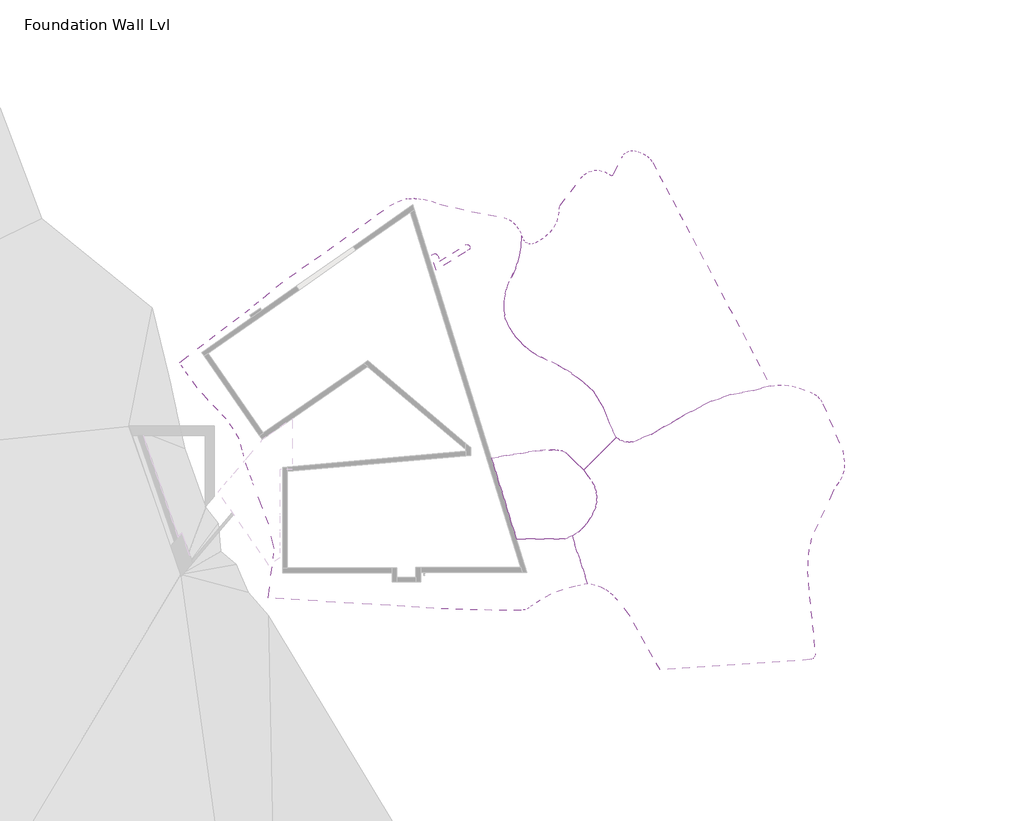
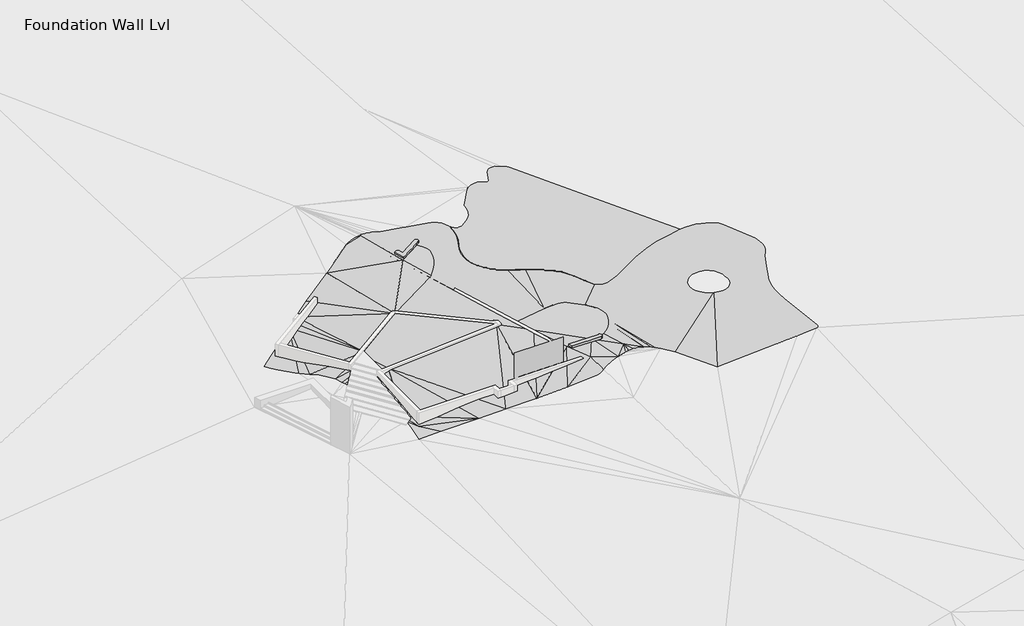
# One storey, part 2 of 2: 4 proxies, 1 geographic element.
"""IFC4 building model written with IfcOpenShell, lengths in millimetres."""

from ifc_helpers import new_model, si_unit, origin, place, context, project, spatial, triangles, transform, mapped, element, save
from components import geographic_element_bb1ba671

model = new_model("IFC4")

# Units and contexts
model_context = context("Model", 3, world=origin())
ifc_project = project(units=[si_unit("LENGTHUNIT", "METRE", prefix="MILLI")], contexts=[model_context])

# Site, building, storey
site = spatial("IfcSite", under=ifc_project)
building = spatial("IfcBuilding", under=site)
storey = spatial("IfcBuildingStorey", under=building, Name="Foundation Wall Lvl", Elevation=-2600.0)

# Proxies
placement = place(None, origin())
element("IfcBuildingElementProxy", 1, Name="Building Element Proxy", at=placement, inside=storey, context=model_context, shape_type="Tessellation", body=[
    triangles([(14198.0949921, 4639.8493469, -126.3244659), (12076.7744751, 2518.5291206, -125.9451649), (12536.6371033, 1908.2708759, -122.9605088), (12732.2205139, 1591.0216358, -121.525749), (12865.5484222, 1242.9927338, -120.1700541), (12931.9885529, 876.2694786, -118.9405325), (12929.2340698, 503.5864855, -117.8798505), (12857.3826416, 137.8850975, -117.0248518), (12679.2307251, -329.0655973, -116.1653204), (12431.4214325, -763.0832188, -115.5873578), (12119.8439392, -1153.8520992, -115.3046898), (11751.9036072, -1492.0843609, -115.3240381), (11336.3464142, -1769.7408142, -115.6449488), (12031.6400208, -3878.0095116, -107.7344941), (12359.3142059, -4871.5866554, -83.8802725), (12808.6216644, -4955.6719299, -93.5646741), (13238.704715, -5110.5118973, -100.3689644), (13281.9009155, -5134.4557846, -100.774036), (13444.9386383, -5224.8293381, -100.076931), (13638.5000793, -5332.1216263, -100.5082637), (13720.040451, -5396.2874771, -100.6828715), (13997.7211761, -5614.8008835, -103.6059216), (14307.126709, -5951.2762756, -108.8874761), (15107.4859955, -6975.6904907, -125.9028165), (17046.7246033, -10474.168808, -189.2564167), (24825.7683838, -9930.2054993, -126.0377192), (26799.5269775, -9792.1871796, -130.8969884), (26913.3572388, -9763.278479, -131.1850613), (27009.8536743, -9696.3360535, -131.4451472), (27034.3405518, -9671.849176, -131.5139475), (27104.6990479, -9560.7077042, -131.7269068), (27120.7469055, -9430.1505569, -131.8148375), (26661.6702759, -4794.8169228, -132.4307338), (26620.4867432, -4067.7546158, -132.6024166), (26640.6436523, -3339.805735, -132.9238451), (26721.9945007, -2616.1362442, -133.3927209), (26863.9649048, -1901.881295, -134.0057376), (27709.2016846, -89.2656542, -136.7426527), (28343.1281067, 1270.1960152, -138.7953344), (28647.2118713, 1704.4706703, -139.6984679), (28849.1460571, 2063.2131626, -140.324547), (28977.2126587, 2454.4580315, -140.7828584), (29026.4933716, 2863.1700027, -141.0557887), (28995.0883118, 3273.6423317, -141.1328552), (28903.0288147, 3795.7398239, -141.1039326), (27617.0305664, 6825.3630386, -139.1049358), (27478.6297119, 7076.3349289, -138.8617094), (27292.0201721, 7293.8635117, -138.488549), (27065.0223999, 7468.8324829, -138.0010969), (26807.1520935, 7593.9091507, -137.4197734), (26076.6292419, 7859.7975723, -135.7398523), (25626.4636963, 7987.4641983, -134.6911155), (25162.5501526, 8048.5395401, -133.5839792), (24694.6833618, 8041.7341415, -132.441816), (24210.3896667, 7999.3640533, -131.2463312), (23111.031189, 7704.7919174, -128.4583473), (21633.8190308, 7444.3200256, -124.7627607), (20412.2191772, 6999.6936768, -121.6208831), (19073.439267, 6346.7271378, -118.1156374), (19064.0282135, 6342.1367203, -118.1277733), (16465.9519135, 4842.1369995, -120.8102222), (15260.6126953, 4355.1484108, -122.6534327), (14978.2322571, 4339.7319099, -123.3680421), (14698.8807037, 4383.7690475, -124.2448962), (14434.9363495, 4485.3079079, -125.2451441), (20935.5593262, -206.6307378, -120.1996944), (20820.9686462, 109.4318288, -120.0388212), (20782.0779968, 443.3692672, -120.0690156), (20820.9686462, 777.3066965, -120.2886788), (20935.5593262, 1093.3692358, -120.6860383), (21154.2343506, 1422.3592564, -121.3417486), (21446.3746582, 1688.2668629, -122.1528183), (21794.427832, 1875.1149055, -123.0704948), (22177.4811951, 1971.6764534, -124.039649), (22572.5152222, 1972.1493896, -125.0020448), (22955.7988037, 1876.505373, -125.8998461), (23304.2984619, 1690.491291, -126.6791227), (23597.0736145, 1425.2839325, -127.2930478), (23816.5369629, 1096.8185165, -127.7047232), (23949.4962891, 724.8312658, -127.8894231), (23987.9683594, 331.6733597, -127.836047), (24040.332605, 8.5125567, -127.8427053), (24008.7810425, -317.3392419, -127.6439439), (23895.3879639, -624.450111, -127.2528522), (23707.6133789, -892.6206608, -126.6951555), (23457.8053711, -1104.21276, -126.0075248), (23162.3954956, -1245.3095982, -125.2351883), (22840.8151245, -1306.6307098, -124.4289511), (22453.3713318, -1292.1336296, -123.4906545), (22076.0338989, -1203.034199, -122.6048801), (21723.0298645, -1042.6917332, -121.8050197), (21407.6677185, -817.1517208, -121.1212406), (21141.8351074, -534.9176399, -120.5793224)], [[15, 16, 14], [18, 19, 10], [17, 18, 10], [16, 17, 14], [13, 14, 12], [12, 14, 11], [10, 11, 14], [10, 14, 17], [10, 20, 9], [10, 19, 20], [22, 66, 9], [22, 9, 21], [24, 25, 90], [23, 24, 92], [22, 23, 93], [66, 8, 9], [93, 66, 22], [91, 92, 24], [90, 91, 24], [93, 23, 92], [25, 26, 90], [9, 20, 21], [8, 66, 67], [62, 5, 6], [63, 5, 62], [6, 7, 68], [4, 5, 63], [1, 2, 65], [65, 2, 3], [64, 65, 3], [64, 3, 4], [4, 63, 64], [8, 67, 7], [69, 70, 61], [68, 69, 62], [72, 73, 59], [71, 72, 60], [70, 71, 61], [61, 62, 69], [61, 71, 60], [73, 58, 59], [60, 72, 59], [74, 57, 58], [74, 58, 73], [68, 62, 6], [67, 68, 7], [33, 88, 89], [86, 87, 35], [88, 34, 87], [85, 86, 36], [89, 90, 26], [37, 84, 85], [38, 82, 83], [80, 81, 38], [83, 84, 37], [38, 81, 82], [89, 26, 33], [27, 28, 29], [27, 29, 32], [30, 31, 32], [30, 32, 29], [32, 33, 26], [34, 88, 33], [34, 35, 87], [37, 38, 83], [36, 37, 85], [35, 36, 86], [26, 27, 32], [80, 38, 39], [75, 76, 56], [75, 56, 57], [45, 77, 78], [51, 77, 46], [76, 77, 55], [77, 54, 55], [55, 56, 76], [53, 51, 52], [51, 53, 54], [51, 54, 77], [78, 79, 39], [75, 57, 74], [40, 45, 39], [44, 40, 41], [42, 43, 44], [42, 44, 41], [45, 40, 44], [49, 47, 48], [47, 49, 50], [50, 46, 47], [51, 46, 50], [45, 46, 77], [78, 39, 45], [79, 80, 39]], closed=False),
])
element("IfcBuildingElementProxy", 2, Name="Building Element Proxy", at=placement, inside=storey, context=model_context, shape_type="Tessellation", body=[
    triangles([(4396.2113113, 16705.3105591, -49.9751064), (2313.0293095, 15403.5946655, -44.960328), (3247.4892769, 12395.9573181, -74.8552283), (3325.0758202, 12473.54328, -74.8179668), (3815.3502548, 13018.0484161, -74.1650861), (4246.0222229, 13610.8180481, -72.7105418), (4260.2486801, 13632.7248505, -72.6445938), (4533.2090538, 14115.1802856, -70.9009457), (4745.3385475, 14627.3060028, -68.489901), (4893.4745636, 15161.4664215, -65.4473996), (4906.2778519, 15221.7022797, -65.0761468), (4932.4471848, 15542.2931763, -62.7973206), (4876.5921638, 15859.0633759, -59.9559198), (4742.3523926, 16151.3687897, -56.7371164), (8958.9979202, 3761.6288246, -137.8855971), (6094.7018234, 3307.9687248, -144.282127), (6645.6833084, 1534.5888885, -137.7192191), (7732.846019, -1964.5363369, -51.855642), (10127.5853119, -1964.5363369, -118.3347555), (10854.2107269, -1964.5363369, -116.3822312), (11336.3464142, -1769.7408142, -115.6449488), (11751.9036072, -1492.0843609, -115.3240381), (12119.8439392, -1153.8520992, -115.3046898), (12431.4214325, -763.0832188, -115.5873578), (12679.2307251, -329.0655973, -116.1653204), (12857.3826416, 137.8850975, -117.0248518), (12931.9885529, 501.2695121, -117.8658071), (12931.9885529, 876.2694786, -118.9405325), (12865.3077393, 1244.3186703, -120.1745052), (12732.2205139, 1591.0216358, -121.525749), (12608.0141418, 1792.4936405, -122.4369034), (12076.7744751, 2518.5291206, -125.9451649), (11021.7911957, 3573.5124001, -131.8035192), (10878.8871277, 3683.166172, -132.5017687), (10712.4728668, 3752.0974297, -133.1464968), (10679.848114, 3760.8393379, -133.259217), (10250.6894257, 3836.5114632, -134.6292824), (9814.9113739, 3836.5114632, -135.8002683)], [[2, 3, 4], [4, 5, 2], [6, 2, 5], [19, 15, 17], [17, 15, 16], [38, 15, 32], [17, 18, 19], [7, 8, 2], [2, 14, 1], [11, 14, 2], [2, 8, 9], [7, 2, 6], [11, 2, 10], [13, 11, 12], [13, 14, 11], [10, 2, 9], [19, 20, 21], [21, 22, 19], [19, 22, 23], [23, 24, 32], [31, 25, 26], [24, 25, 31], [23, 32, 19], [27, 28, 26], [33, 34, 35], [33, 36, 37], [36, 33, 35], [37, 38, 33], [28, 29, 31], [31, 32, 24], [31, 29, 30], [38, 32, 33], [28, 31, 26], [32, 15, 19]], closed=False),
])
element("IfcBuildingElementProxy", 3, Name="Building Element Proxy", at=placement, inside=storey, context=model_context, shape_type="Tessellation", body=[
    triangles([(13775.4766022, 5546.157399, -130.0574957), (14198.0949921, 4639.8493469, -126.3244659), (14434.9363495, 4485.3079079, -125.2451441), (14698.8807037, 4383.7690475, -124.2448962), (14978.2322571, 4339.7319099, -123.3680421), (15260.6126953, 4355.1484108, -122.6534327), (16465.9519135, 4842.1369995, -120.8102222), (19064.0282135, 6342.1367203, -118.1277733), (19073.439267, 6346.7271378, -118.1156374), (20412.2191772, 6999.6936768, -121.6208831), (21633.8190308, 7444.3200256, -124.7627607), (23111.031189, 7704.7919174, -128.4583473), (24210.3896667, 7999.3640533, -131.2463312), (21957.1341797, 12275.2739868, -127.3575605), (19170.5926392, 17563.1779633, -150.0000011), (16573.0965363, 22492.3387207, -93.3121913), (16411.2343231, 22732.4008118, -90.296169), (16201.5831665, 22932.0932739, -87.24601), (15953.9320038, 23082.0864441, -84.3041202), (15637.4048126, 23229.6867371, -80.8835804), (15390.7907959, 23300.4010254, -78.5594218), (15134.3936554, 23291.4480835, -76.777908), (14893.3130219, 23203.7022766, -75.7134154), (14691.1474548, 23045.7537781, -75.4701527), (14547.6852814, 22833.0621094, -76.0719282), (14047.9739227, 21761.4275208, -80.7141958), (13985.3707672, 21691.8992065, -80.7975573), (13894.5914246, 21669.2657043, -80.3166092), (13806.6746979, 21701.2660767, -79.4358036), (13740.8542969, 21750.8653748, -78.5789791), (13440.9388824, 21920.5480408, -75.1083515), (13107.3255249, 22006.8264954, -72.0365187), (12762.7500458, 22003.8197021, -69.5728246), (12430.6935699, 21911.7322998, -67.8851687), (12133.7849487, 21736.8406494, -67.0885603), (11892.2589935, 21491.0626282, -67.237284), (10569.646701, 19735.895343, -71.2019675), (10529.2305634, 19659.0767761, -71.5015768), (10515.2779266, 19573.4052612, -72.0603272), (10515.2779266, 19494.140332, -72.6704553), (10475.6733673, 19082.4061615, -75.5538776), (10358.3107635, 18685.7722321, -77.7598975), (10167.4956665, 18318.7806793, -79.2076108), (9910.2241608, 17994.8923096, -79.8439364), (9620.9040298, 17727.6946655, -79.8126065), (9302.6193878, 17495.7553345, -79.3008191), (8959.6432297, 17302.1892426, -78.3154686), (8740.3525452, 17239.7465424, -77.2134828), (8513.0646744, 17257.8442749, -75.4338086), (8306.4197296, 17354.2046722, -73.200719), (8146.4579819, 17516.6842896, -70.795597), (8053.3351776, 17724.8076324, -68.5215216), (8017.9634995, 17019.2786041, -73.6969415), (7891.775853, 16324.2245178, -78.1362917), (7676.8854813, 15651.2876862, -81.7652399), (7376.8904205, 15011.736026, -84.522984), (7146.6381958, 14510.4840637, -86.7195432), (6991.488945, 13981.1466064, -89.6742956), (6914.7197937, 13434.9090179, -93.3248268), (6917.9538986, 12883.3124542, -97.5939976), (7001.1232407, 12338.0120178, -102.3915972), (7279.9876144, 11770.2978333, -108.7740837), (7630.8970093, 11244.0578613, -115.3572756), (8047.7895859, 10768.3834076, -122.0274626), (8523.4640396, 10351.4914124, -128.6694172), (9049.7034302, 10000.5814362, -135.1684028), (9617.4181961, 9721.7170624, -141.4121714), (10408.6483887, 9347.8951126, -150.0000011), (10480.407962, 9313.9919495, -149.7100116), (11297.8464386, 8821.2569092, -146.1013292), (12061.3835541, 8248.5418671, -142.4082589), (12763.2255981, 7601.6964661, -138.6685253), (13381.2715942, 6573.0958786, -134.0598858)], [[60, 61, 62], [60, 62, 59], [59, 62, 63], [59, 63, 58], [57, 58, 63], [63, 56, 57], [56, 67, 55], [56, 63, 64], [55, 47, 54], [44, 69, 70], [69, 45, 68], [65, 66, 56], [65, 56, 64], [67, 46, 55], [56, 66, 67], [46, 67, 68], [15, 44, 70], [53, 49, 50], [53, 54, 49], [49, 54, 48], [54, 47, 48], [51, 52, 53], [45, 46, 68], [51, 53, 50], [47, 55, 46], [15, 43, 44], [28, 37, 41], [43, 15, 42], [39, 40, 37], [39, 37, 38], [40, 41, 37], [37, 28, 36], [41, 42, 28], [45, 69, 44], [71, 15, 70], [1, 3, 4], [4, 5, 1], [6, 1, 5], [72, 73, 8], [7, 73, 1], [15, 28, 42], [3, 1, 2], [28, 29, 36], [6, 7, 1], [72, 8, 9], [9, 10, 14], [9, 14, 72], [15, 71, 14], [14, 10, 11], [14, 12, 13], [12, 14, 11], [8, 73, 7], [28, 15, 27], [31, 32, 36], [36, 30, 31], [36, 29, 30], [34, 35, 33], [32, 33, 35], [36, 32, 35], [27, 16, 26], [20, 24, 25], [25, 17, 18], [17, 25, 16], [25, 26, 16], [19, 25, 18], [22, 23, 20], [22, 20, 21], [23, 24, 20], [25, 19, 20], [27, 15, 16], [71, 72, 14]], closed=False),
])
element("IfcBuildingElementProxy", 4, Name="Building Element Proxy", at=placement, inside=storey, context=model_context, shape_type="Tessellation", body=[
    triangles([(4396.2113113, 16705.3105591, -49.9751064), (4742.3523926, 16151.3687897, -56.7371164), (4876.5921638, 15859.0633759, -59.9559198), (4932.4471848, 15542.2931763, -62.7973206), (4906.2778519, 15221.7022797, -65.0761468), (4745.3385475, 14627.3060028, -68.489901), (4533.2090538, 14115.1802856, -70.9009457), (4246.0222229, 13610.8180481, -72.7105418), (3815.3502548, 13018.0484161, -74.1650861), (3247.4892769, 12395.9573181, -74.8552283), (2313.0293095, 15403.5946655, -44.960328), (10854.2107269, -1964.5363369, -116.3822312), (10127.5853119, -1964.5363369, -118.3347555), (7732.846019, -1964.5363369, -51.855642), (6645.6833084, 1534.5888885, -137.7192191), (6094.7018234, 3307.9687248, -144.282127), (8958.9979202, 3761.6288246, -137.8855971), (9602.9859375, 3831.1210945, -136.3542861), (10250.6894257, 3836.5114632, -134.6292824), (10481.8055511, 3795.5319878, -133.89081), (10712.4728668, 3752.0974297, -133.1464968), (10878.8871277, 3683.166172, -132.5017687), (11021.7911957, 3573.5124001, -131.8035192), (12076.7744751, 2518.5291206, -125.9451649), (14191.1605316, 4632.9145958, -126.3232305), (13756.7335602, 5564.5446487, -130.1605508), (13369.6967194, 6572.8115936, -134.090171), (12755.4493286, 7595.0910553, -138.6704965), (12055.5001923, 8237.409407, -142.3921625), (11288.8109436, 8815.1514679, -146.1081057), (10470.2155609, 9307.0133057, -149.7173967), (10400.6907349, 9340.4345215, -150.0000011), (9041.6992676, 9993.7190643, -135.1634613), (8513.8134659, 10345.6045624, -128.6450728), (8034.3718002, 10769.5565918, -121.9215915), (7620.9580811, 11238.2942596, -115.3299153), (7269.5795288, 11767.2154633, -108.7226878), (6989.0216537, 12342.4431427, -102.2701565), (6903.7652298, 12880.7335419, -97.5114444), (6903.7652298, 13440.7342438, -93.2009336), (6977.5270065, 13965.5754639, -89.6933897), (7136.0184952, 14518.3010284, -86.5827238), (7664.2909012, 15651.1865295, -81.67512), (7877.9743698, 16323.0222656, -78.0459447), (8007.9524826, 17031.1929932, -73.5329753), (8045.9094681, 17755.4592499, -68.2319953), (7931.1560074, 18070.0598145, -64.9822209), (7754.7940979, 18354.7319733, -61.518179), (7524.2017776, 18597.5671509, -57.9847828), (7249.0249695, 18788.406665, -54.529852), (6940.7757614, 18919.2672821, -51.2979135), (4829.8883286, 19329.2503967, -32.9076434), (2734.741214, 19813.285968, -14.0609604), (2203.6864197, 20009.2158691, -8.7201476), (1651.5991882, 20134.1454529, -3.7740588), (1358.6673592, 20161.0600891, -1.4527699), (1138.1944794, 20181.3169922, -0.8119869), (1087.9279255, 20185.9353149, -2.8357349), (1056.704468, 20184.7074829, -3.9637859), (736.1762129, 20172.108252, -23.453206), (522.319281, 20163.6994629, -38.8130424), (-7.0311524, 19975.8295349, -80.2266801), (-500.8516233, 19708.1551758, -120.7381245), (-3733.5706535, 17361.5588745, -398.0144048), (-7006.5752335, 15071.4858673, -677.0035166), (-7888.2958328, 14413.341156, -752.9983692), (-8740.1984848, 13717.0313324, -827.6507166), (-9316.787709, 13237.2978241, -878.3490755), (-9905.9174469, 12773.0505798, -929.6234894), (-12988.6990448, 10409.4541534, -1196.5959291), (-14166.3992523, 9506.5017105, -1319.4387943), (-13932.2379639, 9155.3109375, -1306.4369717), (-13610.3192413, 8672.5026169, -1286.9380165), (-13003.8411438, 7874.4030762, -1248.0223686), (-12349.2752838, 7115.2436005, -1204.0212027), (-12291.7218201, 7056.2780136, -1200.0000092), (-11649.1168579, 6397.9176178, -1098.597187), (-11126.6417725, 5832.0440186, -1017.5019917), (-10673.9356842, 5208.9465866, -953.1027975), (-10297.2110046, 4537.1785789, -906.2836349), (-10093.5943634, 3827.0835503, -896.3100431), (-9986.5276428, 3453.696167, -871.5951273), (-9718.3730804, 2518.5291206, -955.3798388), (-9457.0169403, 1847.3929058, -1002.7374132), (-9339.3874924, 1545.3324188, -998.7884537), (-8753.0215393, 39.6043822, -1017.7466715), (-8378.0211731, -990.6996305, -1036.9188297), (-8009.4523911, -2581.4988235, -1116.2708902), (-8087.3563568, -3205.5531738, -1200.0000092), (-8228.3785629, -4335.2159065, -1249.6619488), (-8410.3773376, -5793.1295334, -1310.5176819), (-6395.2172012, -5917.8707565, -1158.484956), (-2893.5916924, -6134.626712, -945.6132837), (-485.5460532, -6283.6879623, -775.6846298), (2346.0608688, -6468.7865479, -576.3676898), (5181.8337067, -6572.0017593, -372.564323), (8019.4041092, -6593.2469742, -164.44465), (8286.3052597, -6548.561911, -142.4862701), (8525.8720322, -6422.7033142, -118.4000132), (8774.7254471, -6255.7146698, -91.5298964), (9220.0314056, -5956.8997696, -82.812705), (9958.5084229, -5565.1324036, -73.1863395), (10733.4355408, -5251.5753799, -67.624833), (11536.5562866, -5019.5697739, -66.1874298), (11866.864032, -4960.1600281, -67.2721928), (12359.3142059, -4871.5866554, -83.8802725), (12031.6400208, -3878.0095116, -107.7344941), (11336.3464142, -1769.7408142, -115.6449488), (8672.460759, -4314.6939034, 0.0), (1088.1229717, 20096.1314941, 0.0), (-12972.6046783, 10185.6387451, -1200.0000092), (-7582.9569122, -4344.9751945, -1200.0000092), (4439.7682457, 3751.4157852, -150.0000011), (-1978.1577438, 9236.7739883, -150.0000011), (-6860.5196136, 5859.1255051, -150.0000011), (-6309.4299957, 2810.9827812, -150.0000011), (-6860.5196136, 4450.1490074, -150.0000011), (-6309.4299957, 5084.1053696, -150.0000011)], [[117, 81, 82], [117, 80, 81], [85, 116, 84], [82, 83, 117], [83, 84, 116], [86, 116, 85], [73, 74, 111], [74, 75, 111], [78, 79, 115], [75, 76, 111], [69, 76, 77], [115, 77, 78], [80, 115, 79], [91, 112, 90], [112, 91, 92], [90, 112, 89], [116, 93, 94], [92, 93, 112], [93, 88, 112], [113, 94, 95], [116, 87, 88], [117, 115, 80], [117, 83, 116], [89, 112, 88], [118, 116, 114], [116, 88, 93], [114, 115, 118], [115, 117, 118], [77, 115, 69], [118, 117, 116], [113, 116, 94], [86, 87, 116], [95, 15, 113], [116, 113, 114], [70, 71, 111], [111, 71, 72], [76, 69, 111], [111, 72, 73], [69, 115, 68], [67, 68, 115], [111, 69, 70], [115, 114, 67], [67, 114, 66], [66, 114, 65], [64, 65, 114], [110, 61, 62], [110, 60, 61], [63, 64, 11], [63, 110, 62], [11, 64, 114], [10, 11, 114], [38, 9, 10], [40, 7, 8], [53, 1, 52], [8, 9, 39], [11, 1, 53], [110, 57, 58], [57, 110, 56], [58, 59, 110], [59, 60, 110], [55, 110, 54], [56, 110, 55], [110, 11, 54], [11, 53, 54], [1, 2, 51], [110, 63, 11], [114, 113, 10], [10, 113, 36], [97, 109, 96], [99, 97, 98], [97, 99, 109], [101, 109, 100], [109, 99, 100], [109, 101, 102], [15, 16, 113], [95, 14, 15], [103, 13, 109], [32, 17, 18], [13, 14, 109], [14, 96, 109], [33, 16, 17], [109, 102, 103], [34, 113, 16], [12, 107, 108], [12, 13, 107], [104, 105, 107], [106, 107, 105], [104, 107, 103], [27, 21, 22], [29, 19, 20], [20, 21, 28], [23, 24, 25], [25, 26, 23], [23, 26, 22], [18, 19, 30], [13, 103, 107], [22, 26, 27], [41, 6, 7], [41, 7, 40], [10, 37, 38], [43, 4, 42], [39, 9, 38], [8, 39, 40], [41, 42, 6], [6, 42, 5], [52, 1, 51], [44, 2, 3], [51, 45, 50], [4, 5, 42], [49, 50, 45], [43, 3, 4], [51, 2, 45], [10, 36, 37], [18, 31, 32], [32, 33, 17], [28, 29, 20], [30, 19, 29], [31, 18, 30], [34, 16, 33], [2, 44, 45], [45, 47, 48], [49, 45, 48], [44, 3, 43], [35, 113, 34], [45, 46, 47], [21, 27, 28], [113, 35, 36], [96, 14, 95]], closed=False),
])

# Geographic element
geographic_element_shape = geographic_element_bb1ba671(model_context)
element("IfcGeographicElement", 5, ObjectType="Site Dwarf walls : Site Dwarf walls", at=placement, inside=storey, context=model_context, shape_type="MappedRepresentation", body=[
    mapped(geographic_element_shape, transform((0.0, 0.0, 0.0), x_axis=(1.0, 0.0, 0.0), y_axis=(0.0, 1.0, 0.0), z_axis=(0.0, 0.0, 1.0))),
])

save(model, "model.ifc")
